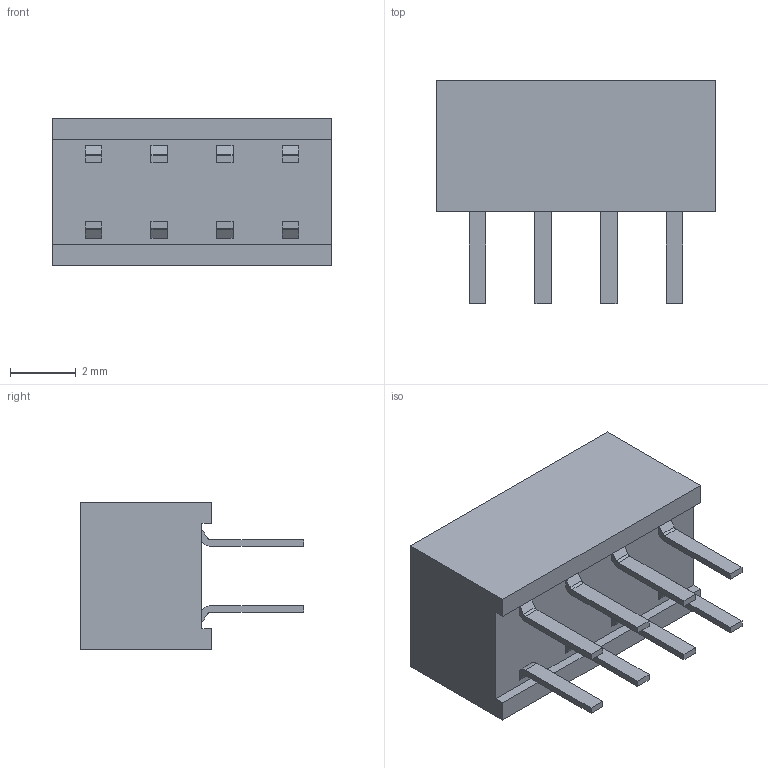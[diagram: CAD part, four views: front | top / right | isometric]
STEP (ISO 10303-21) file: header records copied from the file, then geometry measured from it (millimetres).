
FILE_DESCRIPTION (( 'STEP AP214' ), '1' );
FILE_NAME ('PM200-2-4-Z-4.0-XX(L6.8) (2.00双排 排母 直针 塑高4.0-HCTL).STEP', '2024-11-09T01:29:45', ( '' ), ( '' ), 'SwSTEP 2.0', 'SolidWorks 2022', '' );
FILE_SCHEMA (( 'AUTOMOTIVE_DESIGN' ));
Length unit declared in the file: millimetre
Products named in the file (1): PM200-2-4-Z-4.0-XX(L6.8) (2.00双排 排母 直针 塑高4.0-HCTL)
Bounding box: 8.5 x 6.8 x 4.5 mm (x, y, z)
Volume: 144.1 mm3; surface area: 227.4 mm2
Topology: 1 solids, 1 shells, 154 faces, 376 edges, 240 vertices
Faces by surface type: plane 138, cylinder 16
Entity records: 5242 total; most frequent: CARTESIAN_POINT 771, ORIENTED_EDGE 752, DIRECTION 718, EDGE_CURVE 376, VECTOR 344, LINE 344, VERTEX_POINT 240, AXIS2_PLACEMENT_3D 187
